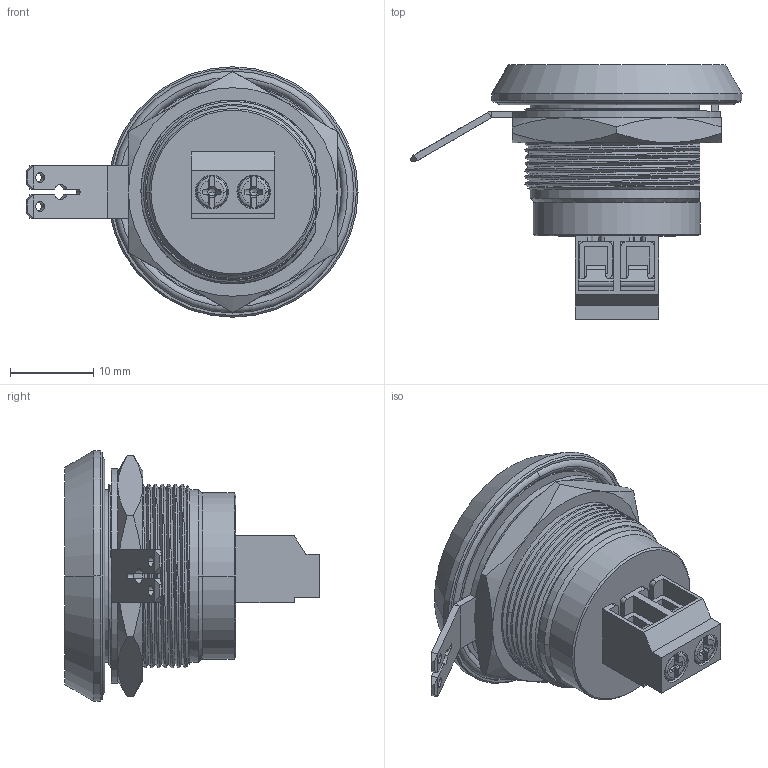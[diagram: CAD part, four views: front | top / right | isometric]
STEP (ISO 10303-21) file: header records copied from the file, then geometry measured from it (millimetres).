
FILE_DESCRIPTION((''),'2;1');
FILE_NAME('10000892304_ASM','2014-04-01T',('MEDavids'),('Rockwell Automation'),'PRO/ENGINEER BY PARAMETRIC TECHNOLOGY CORPORATION, 2012480','PRO/ENGINEER BY PARAMETRIC TECHNOLOGY CORPORATION, 2012480','');
FILE_SCHEMA(('CONFIG_CONTROL_DESIGN'));
Length unit declared in the file: millimetre
Products named in the file (6): 10000892321; 10000892310; 10000892317; 10000892318; 10000892319; 10000892304_ASM
Assembly tree (6 placements, depth 2):
  10000892304_ASM
    10000892321
    10000892310  x2
    10000892317
    10000892318
    10000892319
Bounding box: 39.77 x 30.5 x 30 mm (x, y, z)
Volume: 9529.2 mm3; surface area: 6344.7 mm2
Topology: 6 solids, 6 shells, 361 faces, 1110 edges, 773 vertices
Faces by surface type: plane 177, cylinder 70, cone 40, bspline 38, torus 36
Entity records: 14766 total; most frequent: CARTESIAN_POINT 6132, ORIENTED_EDGE 1758, DIRECTION 1645, EDGE_CURVE 879, VERTEX_POINT 568, VECTOR 551, LINE 551, AXIS2_PLACEMENT_3D 547
